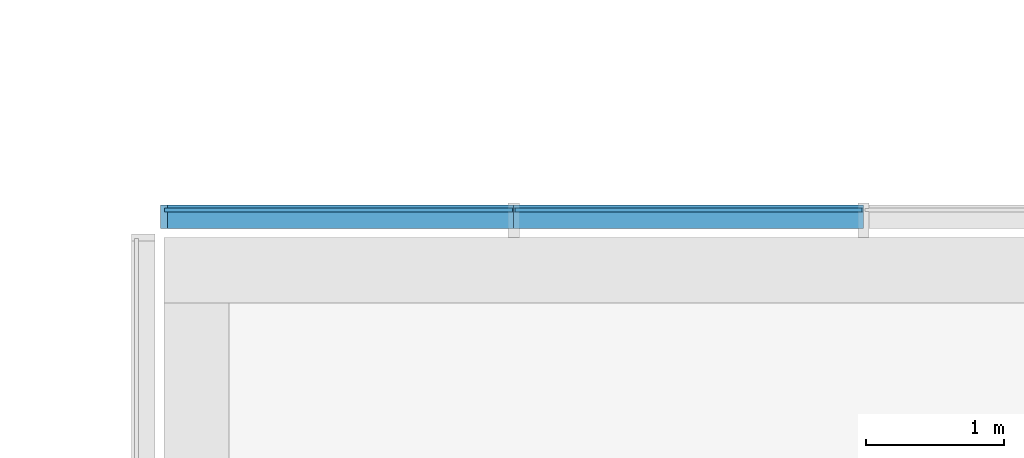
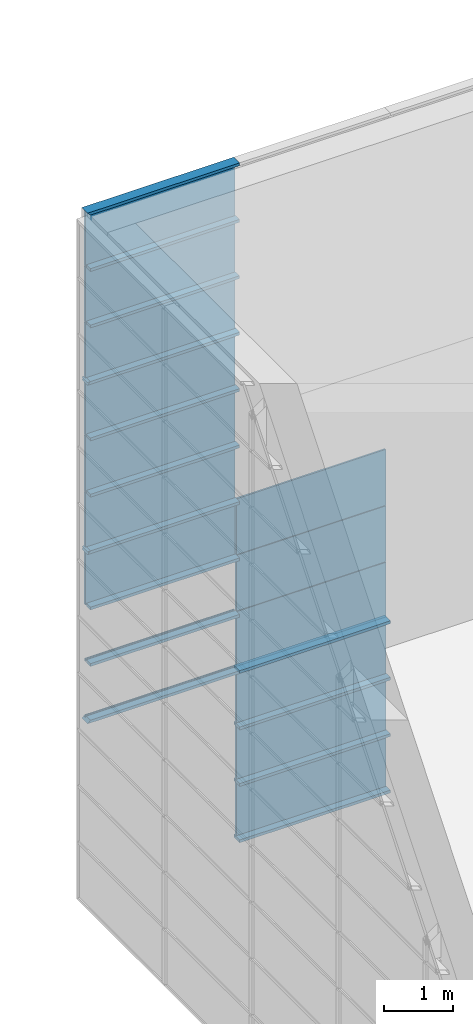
# One storey, part 40 of 105: 30 building element parts, 4 elements without a shape of their own.
"""IFC4 building model written with IfcOpenShell, lengths in millimetres."""

from ifc_helpers import new_model, entity, si_unit, converted_unit, derived_unit, direction, frame, origin_with_axes, place, context, subcontext, project, spatial, triangles, material, element, aggregate, save


model = new_model("IFC4")

# Units and contexts
model_context = context("Model", 3, precision=1e-05, world=origin_with_axes(), true_north=direction((0.0, 1.0)))
body_context = subcontext(model_context, "Body", "Model", "MODEL_VIEW")
ifc_project = project(units=[si_unit("LENGTHUNIT", "METRE", prefix="MILLI"), si_unit("AREAUNIT", "SQUARE_METRE"), si_unit("VOLUMEUNIT", "CUBIC_METRE"), converted_unit("PLANEANGLEUNIT", "DEGREE", entity("IfcLengthMeasure", 0.017453), si_unit("PLANEANGLEUNIT", "RADIAN"), dimensions=[0, 0, 0, 0, 0, 0, 0]), si_unit("SOLIDANGLEUNIT", "STERADIAN"), si_unit("MASSUNIT", "GRAM"), si_unit("TIMEUNIT", "SECOND"), si_unit("THERMODYNAMICTEMPERATUREUNIT", "DEGREE_CELSIUS"), si_unit("LUMINOUSINTENSITYUNIT", "LUMEN"), si_unit("POWERUNIT", "WATT"), derived_unit("THERMALTRANSMITTANCEUNIT", [(si_unit("POWERUNIT", "WATT"), 1), (si_unit("THERMODYNAMICTEMPERATUREUNIT", "KELVIN"), -1), (si_unit("AREAUNIT", "SQUARE_METRE"), -1)])], contexts=[model_context])

# Site, building, storey
site_placement = place(None, origin_with_axes())
site = spatial("IfcSite", under=ifc_project, at=site_placement, Name="Default Site", CompositionType="ELEMENT")
building_placement = place(site_placement, origin_with_axes())
building = spatial("IfcBuilding", under=site, at=building_placement, Name="Default Building", CompositionType="ELEMENT")
storey_placement = place(building_placement, origin_with_axes())
storey = spatial("IfcBuildingStorey", under=building, at=storey_placement, Name="OG - Story", CompositionType="ELEMENT", Elevation=0.0)

# Curtain wall, building element parts
curtain_wall_1_placement = place(storey_placement, origin_with_axes())
curtain_wall_1 = element("IfcCurtainWall", 1, at=curtain_wall_1_placement, inside=storey, Name="Fassade-004", PredefinedType="NOTDEFINED")
ifc_material_1 = material(Name="Normalglas")
building_element_part_1_placement = place(curtain_wall_1_placement, frame((33014.549222, -4389.262838, 0.0), z_axis=(0.0, 0.0, 1.0), x_axis=(1.0, 0.0, 0.0)))
building_element_part_1 = element("IfcBuildingElementPart", 2, at=building_element_part_1_placement, material=ifc_material_1, Name="Normalglas", PredefinedType="NOTDEFINED", context=body_context, shape_type="Tessellation", body=[
    triangles([(3779.474, -14.999, 995.0), (3779.474, 15.0, 995.0), (1273.158, 15.0, 995.0), (1273.158, -14.999, 995.0), (3779.474, -14.999, 5.0), (3779.474, 15.0, 5.0), (1273.158, 15.0, 5.0), (1273.158, -14.999, 5.0)], [[1, 2, 3], [1, 3, 4], [5, 6, 2], [5, 2, 1], [2, 6, 7], [2, 7, 3], [4, 3, 7], [4, 7, 8], [1, 4, 8], [1, 8, 5], [8, 7, 6], [8, 6, 5]], closed=False),
])
building_element_part_2_placement = place(curtain_wall_1_placement, frame((33014.549222, -4389.262838, 0.0), z_axis=(0.0, 0.0, 1.0), x_axis=(1.0, 0.0, 0.0)))
building_element_part_2 = element("IfcBuildingElementPart", 3, at=building_element_part_2_placement, material=ifc_material_1, Name="Normalglas", PredefinedType="NOTDEFINED", context=body_context, shape_type="Tessellation", body=[
    triangles([(3779.474, -14.999, 1995.0), (3779.474, 15.0, 1995.0), (1273.158, 15.0, 1995.0), (1273.158, -14.999, 1995.0), (3779.474, -14.999, 1005.0), (3779.474, 15.0, 1005.0), (1273.158, 15.0, 1005.0), (1273.158, -14.999, 1005.0)], [[1, 2, 3], [1, 3, 4], [5, 6, 2], [5, 2, 1], [2, 6, 7], [2, 7, 3], [4, 3, 7], [4, 7, 8], [1, 4, 8], [1, 8, 5], [8, 7, 6], [8, 6, 5]], closed=False),
])
building_element_part_3_placement = place(curtain_wall_1_placement, frame((33014.549222, -4389.262838, 0.0), z_axis=(0.0, 0.0, 1.0), x_axis=(1.0, 0.0, 0.0)))
building_element_part_3 = element("IfcBuildingElementPart", 4, at=building_element_part_3_placement, material=ifc_material_1, Name="Normalglas", PredefinedType="NOTDEFINED", context=body_context, shape_type="Tessellation", body=[
    triangles([(3779.474, -14.999, 2995.0), (3779.474, 15.0, 2995.0), (1273.158, 15.0, 2995.0), (1273.158, -14.999, 2995.0), (3779.474, -14.999, 2005.0), (3779.474, 15.0, 2005.0), (1273.158, 15.0, 2005.0), (1273.158, -14.999, 2005.0)], [[1, 2, 3], [1, 3, 4], [5, 6, 2], [5, 2, 1], [2, 6, 7], [2, 7, 3], [4, 3, 7], [4, 7, 8], [1, 4, 8], [1, 8, 5], [8, 7, 6], [8, 6, 5]], closed=False),
])
ifc_material_2 = material(Name="Blech")
building_element_part_4_placement = place(curtain_wall_1_placement, frame((33014.549222, -4389.262838, 0.0), z_axis=(0.0, 0.0, 1.0), x_axis=(1.0, 0.0, 0.0)))
building_element_part_4 = element("IfcBuildingElementPart", 5, at=building_element_part_4_placement, material=ifc_material_2, Name="Blech", PredefinedType="NOTDEFINED", context=body_context, shape_type="Tessellation", body=[
    triangles([(3789.474, 35.0, -24.999), (3789.474, 35.0, 25.0), (3789.474, 15.0, 25.0), (3789.474, 15.0, 5.0), (3789.474, -14.999, 5.0), (3789.474, -132.999, 25.0), (3789.474, -132.999, -24.999), (3789.474, -14.999, 25.0), (1263.158, -14.999, 5.0), (1263.158, -14.999, 25.0), (1263.158, -132.999, 25.0), (1263.158, -132.999, -24.999), (1263.158, 35.0, -24.999), (1263.158, 35.0, 25.0), (1263.158, 15.0, 25.0), (1263.158, 15.0, 5.0)], [[1, 2, 3], [1, 3, 4], [1, 4, 5], [1, 5, 6], [1, 6, 7], [8, 6, 5], [5, 9, 10], [5, 10, 8], [10, 11, 6], [10, 6, 8], [11, 12, 7], [11, 7, 6], [12, 13, 1], [12, 1, 7], [13, 14, 2], [13, 2, 1], [3, 2, 14], [3, 14, 15], [15, 16, 4], [15, 4, 3], [4, 16, 9], [4, 9, 5], [15, 16, 13], [13, 16, 9], [13, 9, 11], [11, 9, 10], [13, 11, 12], [15, 13, 14]], closed=False),
])
building_element_part_5_placement = place(curtain_wall_1_placement, frame((33014.549222, -4389.262838, 0.0), z_axis=(0.0, 0.0, 1.0), x_axis=(1.0, 0.0, 0.0)))
building_element_part_5 = element("IfcBuildingElementPart", 6, at=building_element_part_5_placement, material=ifc_material_2, Name="Blech", PredefinedType="NOTDEFINED", context=body_context, shape_type="Tessellation", body=[
    triangles([(3789.474, 35.0, 975.0), (3789.474, 15.0, 975.0), (3789.474, 35.0, 1025.0), (3789.474, 15.0, 995.0), (3789.474, 15.0, 1005.0), (3789.474, -14.999, 995.0), (3789.474, -14.999, 1005.0), (3789.474, -14.999, 1025.0), (3789.474, -14.999, 975.0), (3789.474, -132.999, 975.0), (3789.474, -132.999, 1025.0), (3789.474, 15.0, 1025.0), (1263.158, -14.999, 995.0), (1263.158, 15.0, 995.0), (1263.158, 15.0, 975.0), (1263.158, 35.0, 975.0), (1263.158, 35.0, 1025.0), (1263.158, 15.0, 1025.0), (1263.158, 15.0, 1005.0), (1263.158, -14.999, 1005.0), (1263.158, -14.999, 1025.0), (1263.158, -132.999, 1025.0), (1263.158, -132.999, 975.0), (1263.158, -14.999, 975.0)], [[1, 2, 3], [3, 2, 4], [3, 4, 5], [5, 4, 6], [5, 6, 7], [8, 9, 10], [8, 10, 11], [3, 5, 12], [6, 13, 14], [6, 14, 4], [4, 14, 15], [4, 15, 2], [15, 16, 1], [15, 1, 2], [1, 16, 17], [1, 17, 3], [18, 12, 3], [18, 3, 17], [12, 18, 19], [12, 19, 5], [7, 5, 19], [7, 19, 20], [8, 7, 20], [8, 20, 21], [8, 21, 22], [8, 22, 11], [11, 22, 23], [11, 23, 10], [9, 10, 23], [9, 23, 24], [9, 24, 13], [9, 13, 6], [17, 18, 16], [16, 18, 19], [16, 19, 14], [14, 19, 20], [14, 20, 13], [24, 21, 22], [24, 22, 23], [16, 14, 15]], closed=False),
])
building_element_part_6_placement = place(curtain_wall_1_placement, frame((33014.549222, -4389.262838, 0.0), z_axis=(0.0, 0.0, 1.0), x_axis=(1.0, 0.0, 0.0)))
building_element_part_6 = element("IfcBuildingElementPart", 7, at=building_element_part_6_placement, material=ifc_material_2, Name="Blech", PredefinedType="NOTDEFINED", context=body_context, shape_type="Tessellation", body=[
    triangles([(3789.474, 35.0, 1975.0), (3789.474, 15.0, 1975.0), (3789.474, 35.0, 2025.0), (3789.474, 15.0, 1995.0), (3789.474, 15.0, 2005.0), (3789.474, -14.999, 1995.0), (3789.474, -14.999, 2005.0), (3789.474, -14.999, 2025.0), (3789.474, -14.999, 1975.0), (3789.474, -132.999, 1975.0), (3789.474, -132.999, 2025.0), (3789.474, 15.0, 2025.0), (1263.158, -14.999, 1995.0), (1263.158, 15.0, 1995.0), (1263.158, 15.0, 1975.0), (1263.158, 35.0, 1975.0), (1263.158, 35.0, 2025.0), (1263.158, 15.0, 2025.0), (1263.158, 15.0, 2005.0), (1263.158, -14.999, 2005.0), (1263.158, -14.999, 2025.0), (1263.158, -132.999, 2025.0), (1263.158, -132.999, 1975.0), (1263.158, -14.999, 1975.0)], [[1, 2, 3], [3, 2, 4], [3, 4, 5], [5, 4, 6], [5, 6, 7], [8, 9, 10], [8, 10, 11], [3, 5, 12], [6, 13, 14], [6, 14, 4], [4, 14, 15], [4, 15, 2], [15, 16, 1], [15, 1, 2], [1, 16, 17], [1, 17, 3], [18, 12, 3], [18, 3, 17], [12, 18, 19], [12, 19, 5], [7, 5, 19], [7, 19, 20], [8, 7, 20], [8, 20, 21], [8, 21, 22], [8, 22, 11], [11, 22, 23], [11, 23, 10], [9, 10, 23], [9, 23, 24], [9, 24, 13], [9, 13, 6], [17, 18, 16], [16, 18, 19], [16, 19, 14], [14, 19, 20], [14, 20, 13], [24, 21, 22], [24, 22, 23], [16, 14, 15]], closed=False),
])
building_element_part_7_placement = place(curtain_wall_1_placement, frame((33014.549222, -4389.262838, 0.0), z_axis=(0.0, 0.0, 1.0), x_axis=(1.0, 0.0, 0.0)))
building_element_part_7 = element("IfcBuildingElementPart", 8, at=building_element_part_7_placement, material=ifc_material_2, Name="Blech", PredefinedType="NOTDEFINED", context=body_context, shape_type="Tessellation", body=[
    triangles([(3789.474, 15.0, 2975.0), (3789.474, 15.0, 2995.0), (3789.474, 35.0, 3025.0), (3789.474, -14.999, 2995.0), (3789.474, -132.999, 2975.0), (3789.474, -14.999, 2975.0), (3789.474, -132.999, 3025.0), (3789.474, 35.0, 2975.0), (1263.158, -14.999, 2995.0), (1263.158, 15.0, 2995.0), (1263.158, 15.0, 2975.0), (1263.158, 35.0, 2975.0), (1263.158, 35.0, 3025.0), (1263.158, -132.999, 3025.0), (1263.158, -132.999, 2975.0), (1263.158, -14.999, 2975.0)], [[1, 2, 3], [3, 2, 4], [3, 4, 5], [5, 4, 6], [3, 5, 7], [1, 3, 8], [2, 4, 9], [2, 9, 10], [11, 1, 2], [11, 2, 10], [1, 11, 12], [1, 12, 8], [13, 3, 8], [13, 8, 12], [14, 7, 3], [14, 3, 13], [15, 5, 7], [15, 7, 14], [16, 6, 5], [16, 5, 15], [4, 6, 16], [4, 16, 9], [13, 12, 11], [13, 11, 10], [13, 10, 9], [13, 9, 15], [13, 15, 14], [16, 15, 9]], closed=False),
])
aggregate(curtain_wall_1, [building_element_part_1, building_element_part_2, building_element_part_3, building_element_part_4, building_element_part_5, building_element_part_6, building_element_part_7])

curtain_wall_2_placement = place(storey_placement, origin_with_axes())
curtain_wall_2 = element("IfcCurtainWall", 9, at=curtain_wall_2_placement, inside=storey, Name="Fassade-004", PredefinedType="NOTDEFINED")
building_element_part_8_placement = place(curtain_wall_2_placement, frame((33014.549222, -4389.262838, 3000.0), z_axis=(0.0, 0.0, 1.0), x_axis=(1.0, 0.0, 0.0)))
building_element_part_8 = element("IfcBuildingElementPart", 10, at=building_element_part_8_placement, material=ifc_material_1, Name="Normalglas", PredefinedType="NOTDEFINED", context=body_context, shape_type="Tessellation", body=[
    triangles([(3779.474, -14.999, 995.0), (3779.474, 15.0, 995.0), (1273.158, 15.0, 995.0), (1273.158, -14.999, 995.0), (3779.474, -14.999, 5.0), (3779.474, 15.0, 5.0), (1273.158, 15.0, 5.0), (1273.158, -14.999, 5.0)], [[1, 2, 3], [1, 3, 4], [5, 6, 2], [5, 2, 1], [2, 6, 7], [2, 7, 3], [4, 3, 7], [4, 7, 8], [1, 4, 8], [1, 8, 5], [8, 7, 6], [8, 6, 5]], closed=False),
])
building_element_part_9_placement = place(curtain_wall_2_placement, frame((33014.549222, -4389.262838, 3000.0), z_axis=(0.0, 0.0, 1.0), x_axis=(1.0, 0.0, 0.0)))
building_element_part_9 = element("IfcBuildingElementPart", 11, at=building_element_part_9_placement, material=ifc_material_1, Name="Normalglas", PredefinedType="NOTDEFINED", context=body_context, shape_type="Tessellation", body=[
    triangles([(3779.474, -14.999, 1995.0), (3779.474, 15.0, 1995.0), (1273.158, 15.0, 1995.0), (1273.158, -14.999, 1995.0), (3779.474, -14.999, 1005.0), (3779.474, 15.0, 1005.0), (1273.158, 15.0, 1005.0), (1273.158, -14.999, 1005.0)], [[1, 2, 3], [1, 3, 4], [5, 6, 2], [5, 2, 1], [2, 6, 7], [2, 7, 3], [4, 3, 7], [4, 7, 8], [1, 4, 8], [1, 8, 5], [8, 7, 6], [8, 6, 5]], closed=False),
])
building_element_part_10_placement = place(curtain_wall_2_placement, frame((33014.549222, -4389.262838, 3000.0), z_axis=(0.0, 0.0, 1.0), x_axis=(1.0, 0.0, 0.0)))
building_element_part_10 = element("IfcBuildingElementPart", 12, at=building_element_part_10_placement, material=ifc_material_1, Name="Normalglas", PredefinedType="NOTDEFINED", context=body_context, shape_type="Tessellation", body=[
    triangles([(1253.158, -14.999, 2995.0), (1253.158, 15.0, 2995.0), (-1258.157, 15.0, 2995.0), (-1258.157, -14.999, 2995.0), (1253.158, -14.999, 2005.0), (1253.158, 15.0, 2005.0), (-1258.157, 15.0, 2005.0), (-1258.157, -14.999, 2005.0)], [[1, 2, 3], [1, 3, 4], [5, 6, 2], [5, 2, 1], [2, 6, 7], [2, 7, 3], [4, 3, 7], [4, 7, 8], [1, 4, 8], [1, 8, 5], [8, 7, 6], [8, 6, 5]], closed=False),
])
building_element_part_11_placement = place(curtain_wall_2_placement, frame((33014.549222, -4389.262838, 3000.0), z_axis=(0.0, 0.0, 1.0), x_axis=(1.0, 0.0, 0.0)))
building_element_part_11 = element("IfcBuildingElementPart", 13, at=building_element_part_11_placement, material=ifc_material_1, Name="Normalglas", PredefinedType="NOTDEFINED", context=body_context, shape_type="Tessellation", body=[
    triangles([(3779.474, -14.999, 2995.0), (3779.474, 15.0, 2995.0), (1273.158, 15.0, 2995.0), (1273.158, -14.999, 2995.0), (3779.474, -14.999, 2005.0), (3779.474, 15.0, 2005.0), (1273.158, 15.0, 2005.0), (1273.158, -14.999, 2005.0)], [[1, 2, 3], [1, 3, 4], [5, 6, 2], [5, 2, 1], [2, 6, 7], [2, 7, 3], [4, 3, 7], [4, 7, 8], [1, 4, 8], [1, 8, 5], [8, 7, 6], [8, 6, 5]], closed=False),
])
building_element_part_12_placement = place(curtain_wall_2_placement, frame((33014.549222, -4389.262838, 3000.0), z_axis=(0.0, 0.0, 1.0), x_axis=(1.0, 0.0, 0.0)))
building_element_part_12 = element("IfcBuildingElementPart", 14, at=building_element_part_12_placement, material=ifc_material_2, Name="Blech", PredefinedType="NOTDEFINED", context=body_context, shape_type="Tessellation", body=[
    triangles([(1263.158, 35.0, -24.999), (1263.158, 35.0, 25.0), (1263.158, 15.0, 25.0), (1263.158, 15.0, 5.0), (1263.158, -14.999, 5.0), (1263.158, -132.999, 25.0), (1263.158, -132.999, -24.999), (1263.158, -14.999, 25.0), (-1258.157, -14.999, 5.0), (-1238.157, -14.999, 25.0), (-1238.157, -132.999, 25.0), (-1288.157, -132.999, -24.999), (-1288.157, 35.0, -24.999), (-1238.157, 35.0, 25.0), (-1238.157, 15.0, 25.0), (-1258.157, 15.0, 5.0)], [[1, 2, 3], [1, 3, 4], [1, 4, 5], [1, 5, 6], [1, 6, 7], [8, 6, 5], [5, 9, 10], [5, 10, 8], [10, 11, 6], [10, 6, 8], [6, 11, 12], [6, 12, 7], [7, 12, 13], [7, 13, 1], [1, 13, 14], [1, 14, 2], [3, 2, 14], [3, 14, 15], [15, 16, 4], [15, 4, 3], [4, 16, 9], [4, 9, 5], [15, 16, 13], [13, 16, 9], [13, 9, 11], [11, 9, 10], [13, 11, 12], [15, 13, 14]], closed=False),
])
building_element_part_13_placement = place(curtain_wall_2_placement, frame((33014.549222, -4389.262838, 3000.0), z_axis=(0.0, 0.0, 1.0), x_axis=(1.0, 0.0, 0.0)))
building_element_part_13 = element("IfcBuildingElementPart", 15, at=building_element_part_13_placement, material=ifc_material_2, Name="Blech", PredefinedType="NOTDEFINED", context=body_context, shape_type="Tessellation", body=[
    triangles([(3789.474, 35.0, -24.999), (3789.474, 35.0, 25.0), (3789.474, 15.0, 25.0), (3789.474, 15.0, 5.0), (3789.474, -14.999, 5.0), (3789.474, -132.999, 25.0), (3789.474, -132.999, -24.999), (3789.474, -14.999, 25.0), (1263.158, -14.999, 5.0), (1263.158, -14.999, 25.0), (1263.158, -132.999, 25.0), (1263.158, -132.999, -24.999), (1263.158, 35.0, -24.999), (1263.158, 35.0, 25.0), (1263.158, 15.0, 25.0), (1263.158, 15.0, 5.0)], [[1, 2, 3], [1, 3, 4], [1, 4, 5], [1, 5, 6], [1, 6, 7], [8, 6, 5], [5, 9, 10], [5, 10, 8], [10, 11, 6], [10, 6, 8], [11, 12, 7], [11, 7, 6], [12, 13, 1], [12, 1, 7], [13, 14, 2], [13, 2, 1], [3, 2, 14], [3, 14, 15], [15, 16, 4], [15, 4, 3], [4, 16, 9], [4, 9, 5], [15, 16, 13], [13, 16, 9], [13, 9, 11], [11, 9, 10], [13, 11, 12], [15, 13, 14]], closed=False),
])
building_element_part_14_placement = place(curtain_wall_2_placement, frame((33014.549222, -4389.262838, 3000.0), z_axis=(0.0, 0.0, 1.0), x_axis=(1.0, 0.0, 0.0)))
building_element_part_14 = element("IfcBuildingElementPart", 16, at=building_element_part_14_placement, material=ifc_material_2, Name="Blech", PredefinedType="NOTDEFINED", context=body_context, shape_type="Tessellation", body=[
    triangles([(1263.158, 35.0, 975.0), (1263.158, 15.0, 975.0), (1263.158, 35.0, 1025.0), (1263.158, 15.0, 995.0), (1263.158, 15.0, 1005.0), (1263.158, -14.999, 995.0), (1263.158, -14.999, 1005.0), (1263.158, -14.999, 1025.0), (1263.158, -14.999, 975.0), (1263.158, -132.999, 975.0), (1263.158, -132.999, 1025.0), (1263.158, 15.0, 1025.0), (-1238.157, -14.999, 995.0), (-1238.157, 15.0, 995.0), (-1238.157, 15.0, 975.0), (-1238.157, 35.0, 975.0), (-1238.157, 35.0, 1025.0), (-1238.157, 15.0, 1025.0), (-1238.157, 15.0, 1005.0), (-1238.157, -14.999, 1005.0), (-1238.157, -14.999, 1025.0), (-1238.157, -132.999, 1025.0), (-1238.157, -132.999, 975.0), (-1238.157, -14.999, 975.0)], [[1, 2, 3], [3, 2, 4], [3, 4, 5], [5, 4, 6], [5, 6, 7], [8, 9, 10], [8, 10, 11], [3, 5, 12], [6, 13, 14], [6, 14, 4], [4, 14, 15], [4, 15, 2], [15, 16, 1], [15, 1, 2], [3, 1, 16], [3, 16, 17], [18, 12, 3], [18, 3, 17], [12, 18, 19], [12, 19, 5], [7, 5, 19], [7, 19, 20], [8, 7, 20], [8, 20, 21], [8, 21, 22], [8, 22, 11], [10, 11, 22], [10, 22, 23], [9, 10, 23], [9, 23, 24], [9, 24, 13], [9, 13, 6], [17, 18, 16], [16, 18, 19], [16, 19, 14], [14, 19, 20], [14, 20, 13], [24, 21, 22], [24, 22, 23], [16, 14, 15]], closed=False),
])
building_element_part_15_placement = place(curtain_wall_2_placement, frame((33014.549222, -4389.262838, 3000.0), z_axis=(0.0, 0.0, 1.0), x_axis=(1.0, 0.0, 0.0)))
building_element_part_15 = element("IfcBuildingElementPart", 17, at=building_element_part_15_placement, material=ifc_material_2, Name="Blech", PredefinedType="NOTDEFINED", context=body_context, shape_type="Tessellation", body=[
    triangles([(1263.158, 35.0, 1975.0), (1263.158, 15.0, 1975.0), (1263.158, 35.0, 2025.0), (1263.158, 15.0, 1995.0), (1263.158, 15.0, 2005.0), (1263.158, -14.999, 1995.0), (1263.158, -14.999, 2005.0), (1263.158, -14.999, 2025.0), (1263.158, -14.999, 1975.0), (1263.158, -132.999, 1975.0), (1263.158, -132.999, 2025.0), (1263.158, 15.0, 2025.0), (-1238.157, -14.999, 1995.0), (-1238.157, 15.0, 1995.0), (-1238.157, 15.0, 1975.0), (-1238.157, 35.0, 1975.0), (-1238.157, 35.0, 2025.0), (-1238.157, 15.0, 2025.0), (-1238.157, 15.0, 2005.0), (-1238.157, -14.999, 2005.0), (-1238.157, -14.999, 2025.0), (-1238.157, -132.999, 2025.0), (-1238.157, -132.999, 1975.0), (-1238.157, -14.999, 1975.0)], [[1, 2, 3], [3, 2, 4], [3, 4, 5], [5, 4, 6], [5, 6, 7], [8, 9, 10], [8, 10, 11], [3, 5, 12], [6, 13, 14], [6, 14, 4], [4, 14, 15], [4, 15, 2], [15, 16, 1], [15, 1, 2], [3, 1, 16], [3, 16, 17], [18, 12, 3], [18, 3, 17], [12, 18, 19], [12, 19, 5], [7, 5, 19], [7, 19, 20], [8, 7, 20], [8, 20, 21], [8, 21, 22], [8, 22, 11], [10, 11, 22], [10, 22, 23], [9, 10, 23], [9, 23, 24], [9, 24, 13], [9, 13, 6], [17, 18, 16], [16, 18, 19], [16, 19, 14], [14, 19, 20], [14, 20, 13], [24, 21, 22], [24, 22, 23], [16, 14, 15]], closed=False),
])
building_element_part_16_placement = place(curtain_wall_2_placement, frame((33014.549222, -4389.262838, 3000.0), z_axis=(0.0, 0.0, 1.0), x_axis=(1.0, 0.0, 0.0)))
building_element_part_16 = element("IfcBuildingElementPart", 18, at=building_element_part_16_placement, material=ifc_material_2, Name="Blech", PredefinedType="NOTDEFINED", context=body_context, shape_type="Tessellation", body=[
    triangles([(1263.158, 15.0, 2975.0), (1263.158, 15.0, 2995.0), (1263.158, 35.0, 3025.0), (1263.158, -14.999, 2995.0), (1263.158, -132.999, 2975.0), (1263.158, -14.999, 2975.0), (1263.158, -132.999, 3025.0), (1263.158, 35.0, 2975.0), (-1258.157, -14.999, 2995.0), (-1258.157, 15.0, 2995.0), (-1238.157, 15.0, 2975.0), (-1238.157, 35.0, 2975.0), (-1288.157, 35.0, 3025.0), (-1288.157, -132.999, 3025.0), (-1238.157, -132.999, 2975.0), (-1238.157, -14.999, 2975.0)], [[1, 2, 3], [3, 2, 4], [3, 4, 5], [5, 4, 6], [3, 5, 7], [1, 3, 8], [2, 4, 9], [2, 9, 10], [11, 1, 2], [11, 2, 10], [1, 11, 12], [1, 12, 8], [3, 8, 12], [3, 12, 13], [7, 3, 13], [7, 13, 14], [5, 7, 14], [5, 14, 15], [16, 6, 5], [16, 5, 15], [4, 6, 16], [4, 16, 9], [13, 12, 11], [13, 11, 10], [13, 10, 9], [13, 9, 15], [13, 15, 14], [16, 15, 9]], closed=False),
])
aggregate(curtain_wall_2, [building_element_part_8, building_element_part_9, building_element_part_10, building_element_part_11, building_element_part_12, building_element_part_13, building_element_part_14, building_element_part_15, building_element_part_16])

curtain_wall_3_placement = place(storey_placement, origin_with_axes())
curtain_wall_3 = element("IfcCurtainWall", 19, at=curtain_wall_3_placement, inside=storey, Name="Fassade-004", PredefinedType="NOTDEFINED")
building_element_part_17_placement = place(curtain_wall_3_placement, frame((33014.549222, -4389.262838, 6000.0), z_axis=(0.0, 0.0, 1.0), x_axis=(1.0, 0.0, 0.0)))
building_element_part_17 = element("IfcBuildingElementPart", 20, at=building_element_part_17_placement, material=ifc_material_1, Name="Normalglas", PredefinedType="NOTDEFINED", context=body_context, shape_type="Tessellation", body=[
    triangles([(1253.158, -14.999, 995.0), (1253.158, 15.0, 995.0), (-1258.157, 15.0, 995.0), (-1258.157, -14.999, 995.0), (1253.158, -14.999, 5.0), (1253.158, 15.0, 5.0), (-1258.157, 15.0, 5.0), (-1258.157, -14.999, 5.0)], [[1, 2, 3], [1, 3, 4], [5, 6, 2], [5, 2, 1], [2, 6, 7], [2, 7, 3], [4, 3, 7], [4, 7, 8], [1, 4, 8], [1, 8, 5], [8, 7, 6], [8, 6, 5]], closed=False),
])
building_element_part_18_placement = place(curtain_wall_3_placement, frame((33014.549222, -4389.262838, 6000.0), z_axis=(0.0, 0.0, 1.0), x_axis=(1.0, 0.0, 0.0)))
building_element_part_18 = element("IfcBuildingElementPart", 21, at=building_element_part_18_placement, material=ifc_material_1, Name="Normalglas", PredefinedType="NOTDEFINED", context=body_context, shape_type="Tessellation", body=[
    triangles([(1253.158, -14.999, 1995.0), (1253.158, 15.0, 1995.0), (-1258.157, 15.0, 1995.0), (-1258.157, -14.999, 1995.0), (1253.158, -14.999, 1005.0), (1253.158, 15.0, 1005.0), (-1258.157, 15.0, 1005.0), (-1258.157, -14.999, 1005.0)], [[1, 2, 3], [1, 3, 4], [5, 6, 2], [5, 2, 1], [2, 6, 7], [2, 7, 3], [4, 3, 7], [4, 7, 8], [1, 4, 8], [1, 8, 5], [8, 7, 6], [8, 6, 5]], closed=False),
])
building_element_part_19_placement = place(curtain_wall_3_placement, frame((33014.549222, -4389.262838, 6000.0), z_axis=(0.0, 0.0, 1.0), x_axis=(1.0, 0.0, 0.0)))
building_element_part_19 = element("IfcBuildingElementPart", 22, at=building_element_part_19_placement, material=ifc_material_1, Name="Normalglas", PredefinedType="NOTDEFINED", context=body_context, shape_type="Tessellation", body=[
    triangles([(1253.158, -14.999, 2995.0), (1253.158, 15.0, 2995.0), (-1258.157, 15.0, 2995.0), (-1258.157, -14.999, 2995.0), (1253.158, -14.999, 2005.0), (1253.158, 15.0, 2005.0), (-1258.157, 15.0, 2005.0), (-1258.157, -14.999, 2005.0)], [[1, 2, 3], [1, 3, 4], [5, 6, 2], [5, 2, 1], [2, 6, 7], [2, 7, 3], [4, 3, 7], [4, 7, 8], [1, 4, 8], [1, 8, 5], [8, 7, 6], [8, 6, 5]], closed=False),
])
building_element_part_20_placement = place(curtain_wall_3_placement, frame((33014.549222, -4389.262838, 6000.0), z_axis=(0.0, 0.0, 1.0), x_axis=(1.0, 0.0, 0.0)))
building_element_part_20 = element("IfcBuildingElementPart", 23, at=building_element_part_20_placement, material=ifc_material_2, Name="Blech", PredefinedType="NOTDEFINED", context=body_context, shape_type="Tessellation", body=[
    triangles([(1263.158, 35.0, -24.999), (1263.158, 35.0, 25.0), (1263.158, 15.0, 25.0), (1263.158, 15.0, 5.0), (1263.158, -14.999, 5.0), (1263.158, -132.999, 25.0), (1263.158, -132.999, -24.999), (1263.158, -14.999, 25.0), (-1258.157, -14.999, 5.0), (-1238.157, -14.999, 25.0), (-1238.157, -132.999, 25.0), (-1288.157, -132.999, -24.999), (-1288.157, 35.0, -24.999), (-1238.157, 35.0, 25.0), (-1238.157, 15.0, 25.0), (-1258.157, 15.0, 5.0)], [[1, 2, 3], [1, 3, 4], [1, 4, 5], [1, 5, 6], [1, 6, 7], [8, 6, 5], [5, 9, 10], [5, 10, 8], [10, 11, 6], [10, 6, 8], [6, 11, 12], [6, 12, 7], [7, 12, 13], [7, 13, 1], [1, 13, 14], [1, 14, 2], [3, 2, 14], [3, 14, 15], [15, 16, 4], [15, 4, 3], [4, 16, 9], [4, 9, 5], [15, 16, 13], [13, 16, 9], [13, 9, 11], [11, 9, 10], [13, 11, 12], [15, 13, 14]], closed=False),
])
building_element_part_21_placement = place(curtain_wall_3_placement, frame((33014.549222, -4389.262838, 6000.0), z_axis=(0.0, 0.0, 1.0), x_axis=(1.0, 0.0, 0.0)))
building_element_part_21 = element("IfcBuildingElementPart", 24, at=building_element_part_21_placement, material=ifc_material_2, Name="Blech", PredefinedType="NOTDEFINED", context=body_context, shape_type="Tessellation", body=[
    triangles([(1263.158, 35.0, 975.0), (1263.158, 15.0, 975.0), (1263.158, 35.0, 1025.0), (1263.158, 15.0, 995.0), (1263.158, 15.0, 1005.0), (1263.158, -14.999, 995.0), (1263.158, -14.999, 1005.0), (1263.158, -14.999, 1025.0), (1263.158, -14.999, 975.0), (1263.158, -132.999, 975.0), (1263.158, -132.999, 1025.0), (1263.158, 15.0, 1025.0), (-1238.157, -14.999, 995.0), (-1238.157, 15.0, 995.0), (-1238.157, 15.0, 975.0), (-1238.157, 35.0, 975.0), (-1238.157, 35.0, 1025.0), (-1238.157, 15.0, 1025.0), (-1238.157, 15.0, 1005.0), (-1238.157, -14.999, 1005.0), (-1238.157, -14.999, 1025.0), (-1238.157, -132.999, 1025.0), (-1238.157, -132.999, 975.0), (-1238.157, -14.999, 975.0)], [[1, 2, 3], [3, 2, 4], [3, 4, 5], [5, 4, 6], [5, 6, 7], [8, 9, 10], [8, 10, 11], [3, 5, 12], [6, 13, 14], [6, 14, 4], [4, 14, 15], [4, 15, 2], [15, 16, 1], [15, 1, 2], [3, 1, 16], [3, 16, 17], [18, 12, 3], [18, 3, 17], [12, 18, 19], [12, 19, 5], [7, 5, 19], [7, 19, 20], [8, 7, 20], [8, 20, 21], [8, 21, 22], [8, 22, 11], [10, 11, 22], [10, 22, 23], [9, 10, 23], [9, 23, 24], [9, 24, 13], [9, 13, 6], [17, 18, 16], [16, 18, 19], [16, 19, 14], [14, 19, 20], [14, 20, 13], [24, 21, 22], [24, 22, 23], [16, 14, 15]], closed=False),
])
building_element_part_22_placement = place(curtain_wall_3_placement, frame((33014.549222, -4389.262838, 6000.0), z_axis=(0.0, 0.0, 1.0), x_axis=(1.0, 0.0, 0.0)))
building_element_part_22 = element("IfcBuildingElementPart", 25, at=building_element_part_22_placement, material=ifc_material_2, Name="Blech", PredefinedType="NOTDEFINED", context=body_context, shape_type="Tessellation", body=[
    triangles([(1263.158, 35.0, 1975.0), (1263.158, 15.0, 1975.0), (1263.158, 35.0, 2025.0), (1263.158, 15.0, 1995.0), (1263.158, 15.0, 2005.0), (1263.158, -14.999, 1995.0), (1263.158, -14.999, 2005.0), (1263.158, -14.999, 2025.0), (1263.158, -14.999, 1975.0), (1263.158, -132.999, 1975.0), (1263.158, -132.999, 2025.0), (1263.158, 15.0, 2025.0), (-1238.157, -14.999, 1995.0), (-1238.157, 15.0, 1995.0), (-1238.157, 15.0, 1975.0), (-1238.157, 35.0, 1975.0), (-1238.157, 35.0, 2025.0), (-1238.157, 15.0, 2025.0), (-1238.157, 15.0, 2005.0), (-1238.157, -14.999, 2005.0), (-1238.157, -14.999, 2025.0), (-1238.157, -132.999, 2025.0), (-1238.157, -132.999, 1975.0), (-1238.157, -14.999, 1975.0)], [[1, 2, 3], [3, 2, 4], [3, 4, 5], [5, 4, 6], [5, 6, 7], [8, 9, 10], [8, 10, 11], [3, 5, 12], [6, 13, 14], [6, 14, 4], [4, 14, 15], [4, 15, 2], [15, 16, 1], [15, 1, 2], [3, 1, 16], [3, 16, 17], [18, 12, 3], [18, 3, 17], [12, 18, 19], [12, 19, 5], [7, 5, 19], [7, 19, 20], [8, 7, 20], [8, 20, 21], [8, 21, 22], [8, 22, 11], [10, 11, 22], [10, 22, 23], [9, 10, 23], [9, 23, 24], [9, 24, 13], [9, 13, 6], [17, 18, 16], [16, 18, 19], [16, 19, 14], [14, 19, 20], [14, 20, 13], [24, 21, 22], [24, 22, 23], [16, 14, 15]], closed=False),
])
building_element_part_23_placement = place(curtain_wall_3_placement, frame((33014.549222, -4389.262838, 6000.0), z_axis=(0.0, 0.0, 1.0), x_axis=(1.0, 0.0, 0.0)))
building_element_part_23 = element("IfcBuildingElementPart", 26, at=building_element_part_23_placement, material=ifc_material_2, Name="Blech", PredefinedType="NOTDEFINED", context=body_context, shape_type="Tessellation", body=[
    triangles([(1263.158, 15.0, 2975.0), (1263.158, 15.0, 2995.0), (1263.158, 35.0, 3025.0), (1263.158, -14.999, 2995.0), (1263.158, -132.999, 2975.0), (1263.158, -14.999, 2975.0), (1263.158, -132.999, 3025.0), (1263.158, 35.0, 2975.0), (-1258.157, -14.999, 2995.0), (-1258.157, 15.0, 2995.0), (-1238.157, 15.0, 2975.0), (-1238.157, 35.0, 2975.0), (-1288.157, 35.0, 3025.0), (-1288.157, -132.999, 3025.0), (-1238.157, -132.999, 2975.0), (-1238.157, -14.999, 2975.0)], [[1, 2, 3], [3, 2, 4], [3, 4, 5], [5, 4, 6], [3, 5, 7], [1, 3, 8], [2, 4, 9], [2, 9, 10], [11, 1, 2], [11, 2, 10], [1, 11, 12], [1, 12, 8], [3, 8, 12], [3, 12, 13], [7, 3, 13], [7, 13, 14], [5, 7, 14], [5, 14, 15], [16, 6, 5], [16, 5, 15], [4, 6, 16], [4, 16, 9], [13, 12, 11], [13, 11, 10], [13, 10, 9], [13, 9, 15], [13, 15, 14], [16, 15, 9]], closed=False),
])
aggregate(curtain_wall_3, [building_element_part_17, building_element_part_18, building_element_part_19, building_element_part_20, building_element_part_21, building_element_part_22, building_element_part_23])

curtain_wall_4_placement = place(storey_placement, origin_with_axes())
curtain_wall_4 = element("IfcCurtainWall", 27, at=curtain_wall_4_placement, inside=storey, Name="Fassade-004", PredefinedType="NOTDEFINED")
building_element_part_24_placement = place(curtain_wall_4_placement, frame((33014.549222, -4389.262838, 9000.0), z_axis=(0.0, 0.0, 1.0), x_axis=(1.0, 0.0, 0.0)))
building_element_part_24 = element("IfcBuildingElementPart", 28, at=building_element_part_24_placement, material=ifc_material_1, Name="Normalglas", PredefinedType="NOTDEFINED", context=body_context, shape_type="Tessellation", body=[
    triangles([(1253.158, -14.999, 995.0), (1253.158, 15.0, 995.0), (-1258.157, 15.0, 995.0), (-1258.157, -14.999, 995.0), (1253.158, -14.999, 5.0), (1253.158, 15.0, 5.0), (-1258.157, 15.0, 5.0), (-1258.157, -14.999, 5.0)], [[1, 2, 3], [1, 3, 4], [5, 6, 2], [5, 2, 1], [2, 6, 7], [2, 7, 3], [4, 3, 7], [4, 7, 8], [1, 4, 8], [1, 8, 5], [8, 7, 6], [8, 6, 5]], closed=False),
])
building_element_part_25_placement = place(curtain_wall_4_placement, frame((33014.549222, -4389.262838, 9000.0), z_axis=(0.0, 0.0, 1.0), x_axis=(1.0, 0.0, 0.0)))
building_element_part_25 = element("IfcBuildingElementPart", 29, at=building_element_part_25_placement, material=ifc_material_1, Name="Normalglas", PredefinedType="NOTDEFINED", context=body_context, shape_type="Tessellation", body=[
    triangles([(1253.158, -14.999, 1995.0), (1253.158, 15.0, 1995.0), (-1258.157, 15.0, 1995.0), (-1258.157, -14.999, 1995.0), (1253.158, -14.999, 1005.0), (1253.158, 15.0, 1005.0), (-1258.157, 15.0, 1005.0), (-1258.157, -14.999, 1005.0)], [[1, 2, 3], [1, 3, 4], [5, 6, 2], [5, 2, 1], [2, 6, 7], [2, 7, 3], [4, 3, 7], [4, 7, 8], [1, 4, 8], [1, 8, 5], [8, 7, 6], [8, 6, 5]], closed=False),
])
building_element_part_26_placement = place(curtain_wall_4_placement, frame((33014.549222, -4389.262838, 9000.0), z_axis=(0.0, 0.0, 1.0), x_axis=(1.0, 0.0, 0.0)))
building_element_part_26 = element("IfcBuildingElementPart", 30, at=building_element_part_26_placement, material=ifc_material_1, Name="Normalglas", PredefinedType="NOTDEFINED", context=body_context, shape_type="Tessellation", body=[
    triangles([(1253.158, -14.999, 2995.0), (1253.158, 15.0, 2995.0), (-1258.157, 15.0, 2995.0), (-1258.157, -14.999, 2995.0), (1253.158, -14.999, 2005.0), (1253.158, 15.0, 2005.0), (-1258.157, 15.0, 2005.0), (-1258.157, -14.999, 2005.0)], [[1, 2, 3], [1, 3, 4], [5, 6, 2], [5, 2, 1], [2, 6, 7], [2, 7, 3], [4, 3, 7], [4, 7, 8], [1, 4, 8], [1, 8, 5], [8, 7, 6], [8, 6, 5]], closed=False),
])
building_element_part_27_placement = place(curtain_wall_4_placement, frame((33014.549222, -4389.262838, 9000.0), z_axis=(0.0, 0.0, 1.0), x_axis=(1.0, 0.0, 0.0)))
building_element_part_27 = element("IfcBuildingElementPart", 31, at=building_element_part_27_placement, material=ifc_material_2, Name="Blech", PredefinedType="NOTDEFINED", context=body_context, shape_type="Tessellation", body=[
    triangles([(1263.158, 35.0, -24.999), (1263.158, 35.0, 25.0), (1263.158, 15.0, 25.0), (1263.158, 15.0, 5.0), (1263.158, -14.999, 5.0), (1263.158, -132.999, 25.0), (1263.158, -132.999, -24.999), (1263.158, -14.999, 25.0), (-1258.157, -14.999, 5.0), (-1238.157, -14.999, 25.0), (-1238.157, -132.999, 25.0), (-1288.157, -132.999, -24.999), (-1288.157, 35.0, -24.999), (-1238.157, 35.0, 25.0), (-1238.157, 15.0, 25.0), (-1258.157, 15.0, 5.0)], [[1, 2, 3], [1, 3, 4], [1, 4, 5], [1, 5, 6], [1, 6, 7], [8, 6, 5], [5, 9, 10], [5, 10, 8], [10, 11, 6], [10, 6, 8], [6, 11, 12], [6, 12, 7], [7, 12, 13], [7, 13, 1], [1, 13, 14], [1, 14, 2], [3, 2, 14], [3, 14, 15], [15, 16, 4], [15, 4, 3], [4, 16, 9], [4, 9, 5], [15, 16, 13], [13, 16, 9], [13, 9, 11], [11, 9, 10], [13, 11, 12], [15, 13, 14]], closed=False),
])
building_element_part_28_placement = place(curtain_wall_4_placement, frame((33014.549222, -4389.262838, 9000.0), z_axis=(0.0, 0.0, 1.0), x_axis=(1.0, 0.0, 0.0)))
building_element_part_28 = element("IfcBuildingElementPart", 32, at=building_element_part_28_placement, material=ifc_material_2, Name="Blech", PredefinedType="NOTDEFINED", context=body_context, shape_type="Tessellation", body=[
    triangles([(1263.158, 35.0, 975.0), (1263.158, 15.0, 975.0), (1263.158, 35.0, 1025.0), (1263.158, 15.0, 995.0), (1263.158, 15.0, 1005.0), (1263.158, -14.999, 995.0), (1263.158, -14.999, 1005.0), (1263.158, -14.999, 1025.0), (1263.158, -14.999, 975.0), (1263.158, -132.999, 975.0), (1263.158, -132.999, 1025.0), (1263.158, 15.0, 1025.0), (-1238.157, -14.999, 995.0), (-1238.157, 15.0, 995.0), (-1238.157, 15.0, 975.0), (-1238.157, 35.0, 975.0), (-1238.157, 35.0, 1025.0), (-1238.157, 15.0, 1025.0), (-1238.157, 15.0, 1005.0), (-1238.157, -14.999, 1005.0), (-1238.157, -14.999, 1025.0), (-1238.157, -132.999, 1025.0), (-1238.157, -132.999, 975.0), (-1238.157, -14.999, 975.0)], [[1, 2, 3], [3, 2, 4], [3, 4, 5], [5, 4, 6], [5, 6, 7], [8, 9, 10], [8, 10, 11], [3, 5, 12], [6, 13, 14], [6, 14, 4], [4, 14, 15], [4, 15, 2], [15, 16, 1], [15, 1, 2], [3, 1, 16], [3, 16, 17], [18, 12, 3], [18, 3, 17], [12, 18, 19], [12, 19, 5], [7, 5, 19], [7, 19, 20], [8, 7, 20], [8, 20, 21], [8, 21, 22], [8, 22, 11], [10, 11, 22], [10, 22, 23], [9, 10, 23], [9, 23, 24], [9, 24, 13], [9, 13, 6], [17, 18, 16], [16, 18, 19], [16, 19, 14], [14, 19, 20], [14, 20, 13], [24, 21, 22], [24, 22, 23], [16, 14, 15]], closed=False),
])
building_element_part_29_placement = place(curtain_wall_4_placement, frame((33014.549222, -4389.262838, 9000.0), z_axis=(0.0, 0.0, 1.0), x_axis=(1.0, 0.0, 0.0)))
building_element_part_29 = element("IfcBuildingElementPart", 33, at=building_element_part_29_placement, material=ifc_material_2, Name="Blech", PredefinedType="NOTDEFINED", context=body_context, shape_type="Tessellation", body=[
    triangles([(1263.158, 35.0, 1975.0), (1263.158, 15.0, 1975.0), (1263.158, 35.0, 2025.0), (1263.158, 15.0, 1995.0), (1263.158, 15.0, 2005.0), (1263.158, -14.999, 1995.0), (1263.158, -14.999, 2005.0), (1263.158, -14.999, 2025.0), (1263.158, -14.999, 1975.0), (1263.158, -132.999, 1975.0), (1263.158, -132.999, 2025.0), (1263.158, 15.0, 2025.0), (-1238.157, -14.999, 1995.0), (-1238.157, 15.0, 1995.0), (-1238.157, 15.0, 1975.0), (-1238.157, 35.0, 1975.0), (-1238.157, 35.0, 2025.0), (-1238.157, 15.0, 2025.0), (-1238.157, 15.0, 2005.0), (-1238.157, -14.999, 2005.0), (-1238.157, -14.999, 2025.0), (-1238.157, -132.999, 2025.0), (-1238.157, -132.999, 1975.0), (-1238.157, -14.999, 1975.0)], [[1, 2, 3], [3, 2, 4], [3, 4, 5], [5, 4, 6], [5, 6, 7], [8, 9, 10], [8, 10, 11], [3, 5, 12], [6, 13, 14], [6, 14, 4], [4, 14, 15], [4, 15, 2], [15, 16, 1], [15, 1, 2], [3, 1, 16], [3, 16, 17], [18, 12, 3], [18, 3, 17], [12, 18, 19], [12, 19, 5], [7, 5, 19], [7, 19, 20], [8, 7, 20], [8, 20, 21], [8, 21, 22], [8, 22, 11], [10, 11, 22], [10, 22, 23], [9, 10, 23], [9, 23, 24], [9, 24, 13], [9, 13, 6], [17, 18, 16], [16, 18, 19], [16, 19, 14], [14, 19, 20], [14, 20, 13], [24, 21, 22], [24, 22, 23], [16, 14, 15]], closed=False),
])
building_element_part_30_placement = place(curtain_wall_4_placement, frame((33014.549222, -4389.262838, 9000.0), z_axis=(0.0, 0.0, 1.0), x_axis=(1.0, 0.0, 0.0)))
building_element_part_30 = element("IfcBuildingElementPart", 34, at=building_element_part_30_placement, material=ifc_material_2, Name="Blech", PredefinedType="NOTDEFINED", context=body_context, shape_type="Tessellation", body=[
    triangles([(1263.158, 15.0, 2975.0), (1263.158, 15.0, 2995.0), (1263.158, 35.0, 3025.0), (1263.158, -14.999, 2995.0), (1263.158, -132.999, 2975.0), (1263.158, -14.999, 2975.0), (1263.158, -132.999, 3025.0), (1263.158, 35.0, 2975.0), (-1258.157, -14.999, 2995.0), (-1258.157, 15.0, 2995.0), (-1238.157, 15.0, 2975.0), (-1238.157, 35.0, 2975.0), (-1288.157, 35.0, 3025.0), (-1288.157, -132.999, 3025.0), (-1238.157, -132.999, 2975.0), (-1238.157, -14.999, 2975.0)], [[1, 2, 3], [3, 2, 4], [3, 4, 5], [5, 4, 6], [3, 5, 7], [1, 3, 8], [2, 4, 9], [2, 9, 10], [11, 1, 2], [11, 2, 10], [1, 11, 12], [1, 12, 8], [3, 8, 12], [3, 12, 13], [7, 3, 13], [7, 13, 14], [5, 7, 14], [5, 14, 15], [16, 6, 5], [16, 5, 15], [4, 6, 16], [4, 16, 9], [13, 12, 11], [13, 11, 10], [13, 10, 9], [13, 9, 15], [13, 15, 14], [16, 15, 9]], closed=False),
])
aggregate(curtain_wall_4, [building_element_part_24, building_element_part_25, building_element_part_26, building_element_part_27, building_element_part_28, building_element_part_29, building_element_part_30])

save(model, "model.ifc")
